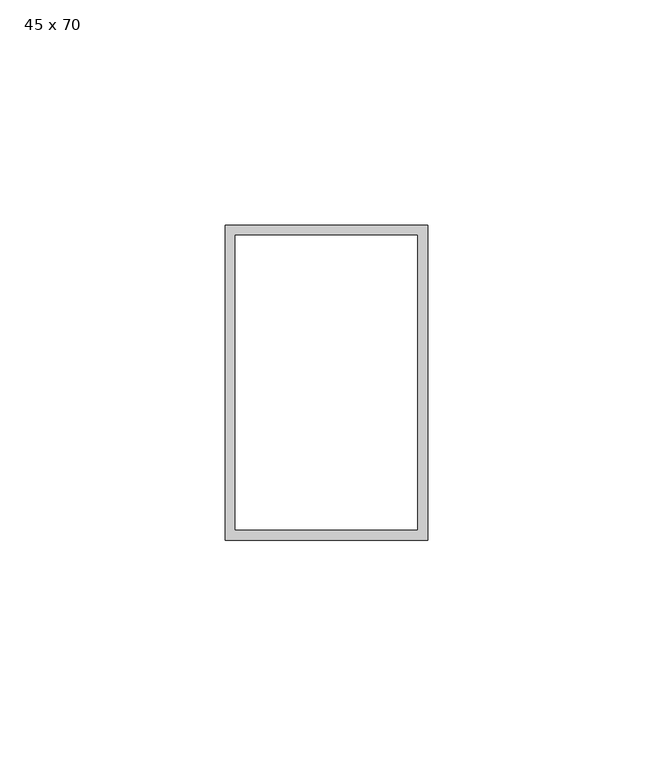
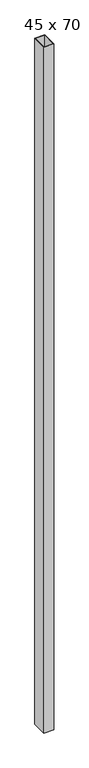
"""IFC4 building model written with IfcOpenShell, lengths in millimetres: column geometry, Wood Tube Pappersregel : 45 x 70."""

from ifc_helpers import new_model, si_unit, origin, origin_with_axes, place, context, project, spatial, polyline, outline, extrude, source, transform, mapped, element, save


def column_45_x_70_e94f2b7f(model_context):
    return source(origin(), model_context, "Body", "SweptSolid", [
        extrude(outline(polyline([(22.5, -35.0), (-22.5, -35.0), (-22.5, 35.0), (22.5, 35.0), (22.5, -35.0)]), holes=[polyline([(20.2, 32.7), (-20.2, 32.7), (-20.2, -32.7), (20.2, -32.7), (20.2, 32.7)])]), origin_with_axes(), (0.0, 0.0, 1.0), 3300.0),
    ])


if __name__ == "__main__":
    model = new_model("IFC4")
    model_context = context("Model", 3, world=origin())
    ifc_project = project(units=[si_unit("LENGTHUNIT", "METRE", prefix="MILLI")], contexts=[model_context])
    site = spatial("IfcSite", under=ifc_project)
    building = spatial("IfcBuilding", under=site)
    placement = place(None, origin())
    column_45_x_70_shape = column_45_x_70_e94f2b7f(model_context)
    element("IfcColumn", 1, ObjectType="Wood Tube Pappersregel : 45 x 70", at=placement, inside=building, context=model_context, shape_type="MappedRepresentation", body=[
        mapped(column_45_x_70_shape, transform((0.0, 0.0, 0.0), x_axis=(1.0, 0.0, 0.0), y_axis=(0.0, 1.0, 0.0), z_axis=(0.0, 0.0, 1.0))),
    ])
    save(model, "model.ifc")
